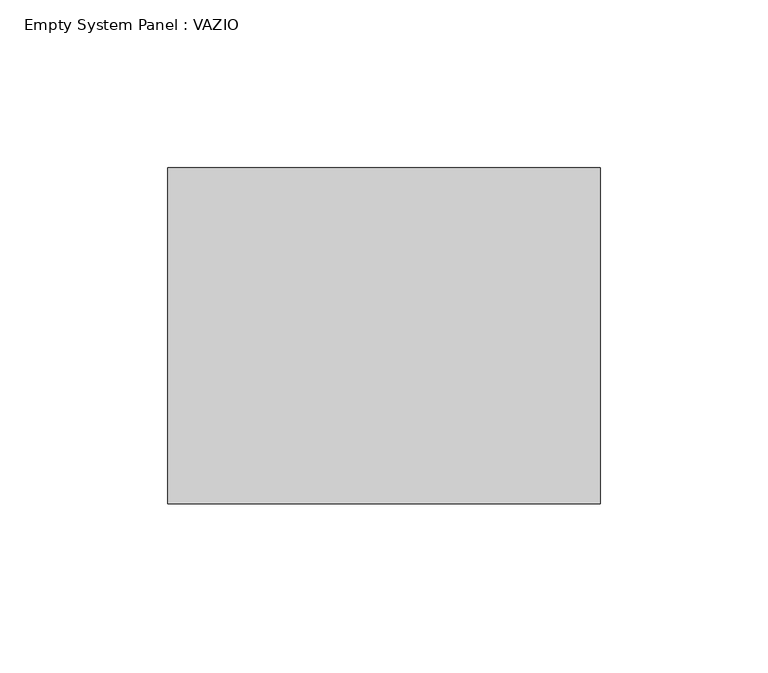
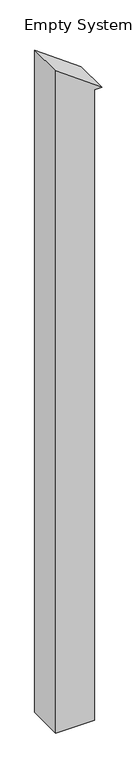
"""IFC4 building model written with IfcOpenShell, lengths in millimetres: plate geometry, Empty System Panel : VAZIO."""

from ifc_helpers import new_model, si_unit, point, frame, frame_2d, origin, place, context, project, spatial, polyline, circle_curve, trimmed, segment, composite_curve, outline, extrude, source, transform, mapped, element, save


def empty_system_panel_vazio_26861695(model_context):
    return source(origin(), model_context, "Body", "SweptSolid", [
        extrude(outline(composite_curve([segment(polyline([(0.0, -64.3902439), (0.0, 44.3902439), (1849.3958802, 44.3902439), (1849.3958802, 64.3902439)]), True, "CONTINUOUS"), segment(trimmed(circle_curve(frame_2d((2889.8290938, 720.4369868)), 1229.9994311), [point((1849.3958802, 64.3902439))], [point((1942.7573865, -64.3902439))], True, "CARTESIAN"), True, "CONTINUOUS"), segment(polyline([(1942.7573865, -64.3902439), (0.0, -64.3902439)]), True, "CONTINUOUS")], self_intersect=False)), frame((0.0, -50.0, 0.0), z_axis=(0.0, 1.0, 0.0), x_axis=(0.0, 0.0, 1.0)), (0.0, 0.0, 1.0), 100.0),
    ])


if __name__ == "__main__":
    model = new_model("IFC4")
    model_context = context("Model", 3, world=origin())
    ifc_project = project(units=[si_unit("LENGTHUNIT", "METRE", prefix="MILLI")], contexts=[model_context])
    site = spatial("IfcSite", under=ifc_project)
    building = spatial("IfcBuilding", under=site)
    placement = place(None, origin())
    empty_system_panel_vazio_shape = empty_system_panel_vazio_26861695(model_context)
    element("IfcPlate", 1, ObjectType="Empty System Panel : VAZIO", at=placement, inside=building, context=model_context, shape_type="MappedRepresentation", body=[
        mapped(empty_system_panel_vazio_shape, transform((0.0, 0.0, 0.0), x_axis=(1.0, 0.0, 0.0), y_axis=(0.0, 1.0, 0.0), z_axis=(0.0, 0.0, 1.0))),
    ])
    save(model, "model.ifc")
